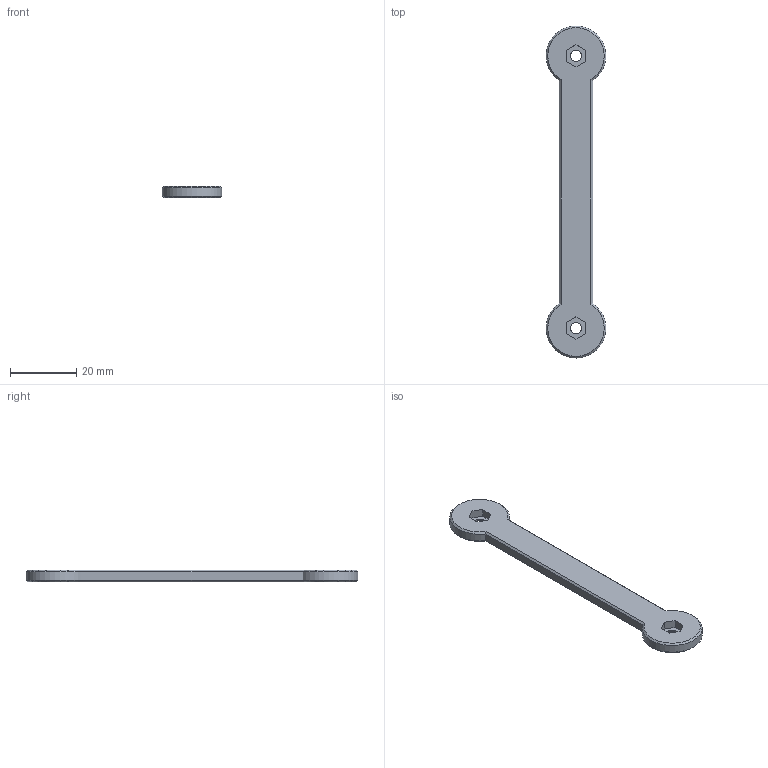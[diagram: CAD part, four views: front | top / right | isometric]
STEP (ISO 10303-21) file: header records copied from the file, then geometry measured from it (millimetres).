
FILE_DESCRIPTION(('CATIA V5 STEP Exchange'),'2;1');
FILE_NAME('D:\_이전 노트북\Cremaker모델링\Cremaker_profile-Metal(5차)-(Final)\Nut-HoldBlock.stp','2020-10-23T05:16:29+00:00',('none'),('none'),'CATIA Version 5 Release 20 GA (IN-10)','CATIA V5 STEP AP203','none');
FILE_SCHEMA(('CONFIG_CONTROL_DESIGN'));
Length unit declared in the file: millimetre
Products named in the file (1): Nut-HoldBlock
Bounding box: 17.99 x 100 x 3.5 mm (x, y, z)
Volume: 3831.7 mm3; surface area: 3054.3 mm2
Topology: 1 solids, 1 shells, 36 faces, 84 edges, 52 vertices
Faces by surface type: plane 22, cone 8, cylinder 6
Entity records: 1013 total; most frequent: CARTESIAN_POINT 180, ORIENTED_EDGE 168, DIRECTION 138, EDGE_CURVE 84, VECTOR 56, LINE 56, AXIS2_PLACEMENT_3D 52, VERTEX_POINT 52
